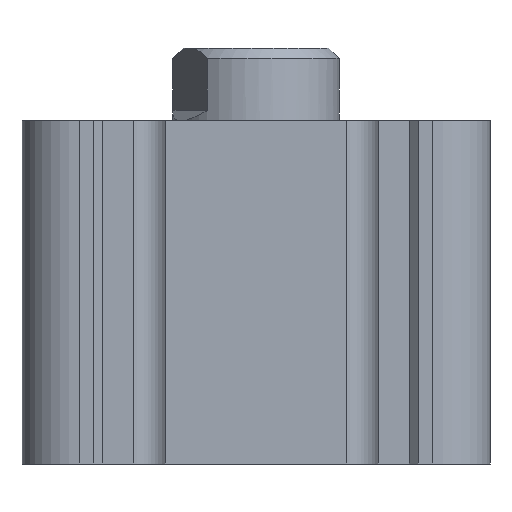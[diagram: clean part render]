
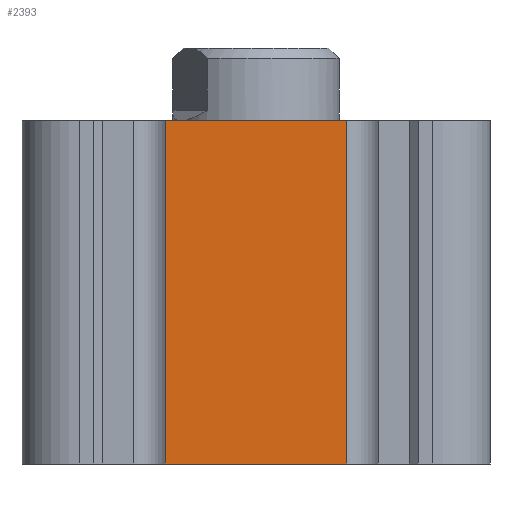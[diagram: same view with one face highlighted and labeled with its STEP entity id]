
A CAD part, front view. The second image highlights one B-rep face of the part: STEP entity #2393.
In plain terms, the highlighted planar face has unit normal (0, -1, 0).
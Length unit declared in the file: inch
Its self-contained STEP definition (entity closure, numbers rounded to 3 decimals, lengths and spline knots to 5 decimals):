
#138=PLANE('',#2690);
#241=FACE_OUTER_BOUND('',#408,.T.);
#408=EDGE_LOOP('',(#1935,#1936,#1937,#1938));
#545=LINE('',#3787,#757);
#623=LINE('',#4009,#835);
#650=LINE('',#4074,#862);
#651=LINE('',#4076,#863);
#757=VECTOR('',#2970,0.3937);
#835=VECTOR('',#3140,0.3937);
#862=VECTOR('',#3217,0.3937);
#863=VECTOR('',#3220,0.3937);
#1098=VERTEX_POINT('',#3784);
#1099=VERTEX_POINT('',#3786);
#1196=VERTEX_POINT('',#4006);
#1197=VERTEX_POINT('',#4008);
#1337=EDGE_CURVE('',#1098,#1099,#545,.T.);
#1446=EDGE_CURVE('',#1196,#1197,#623,.T.);
#1480=EDGE_CURVE('',#1098,#1197,#650,.T.);
#1481=EDGE_CURVE('',#1196,#1099,#651,.T.);
#1935=ORIENTED_EDGE('',*,*,#1480,.T.);
#1936=ORIENTED_EDGE('',*,*,#1446,.F.);
#1937=ORIENTED_EDGE('',*,*,#1481,.T.);
#1938=ORIENTED_EDGE('',*,*,#1337,.F.);
#2393=ADVANCED_FACE('',(#241),#138,.T.);
#2690=AXIS2_PLACEMENT_3D('',#4075,#3218,#3219);
#2970=DIRECTION('',(-1.,0.,0.));
#3140=DIRECTION('',(1.,0.,0.));
#3217=DIRECTION('',(0.,0.,1.));
#3218=DIRECTION('center_axis',(0.,-1.,0.));
#3219=DIRECTION('ref_axis',(1.,0.,0.));
#3220=DIRECTION('',(0.,0.,-1.));
#3784=CARTESIAN_POINT('',(0.34449,-0.85039,-0.64961));
#3786=CARTESIAN_POINT('',(-0.34449,-0.85039,-0.64961));
#3787=CARTESIAN_POINT('',(0.,-0.85039,-0.64961));
#4006=CARTESIAN_POINT('',(-0.34449,-0.85039,0.64961));
#4008=CARTESIAN_POINT('',(0.34449,-0.85039,0.64961));
#4009=CARTESIAN_POINT('',(-0.57953,-0.85039,0.64961));
#4074=CARTESIAN_POINT('',(0.34449,-0.85039,0.3248));
#4075=CARTESIAN_POINT('Origin',(-0.57953,-0.85039,0.));
#4076=CARTESIAN_POINT('',(-0.34449,-0.85039,0.3248));
